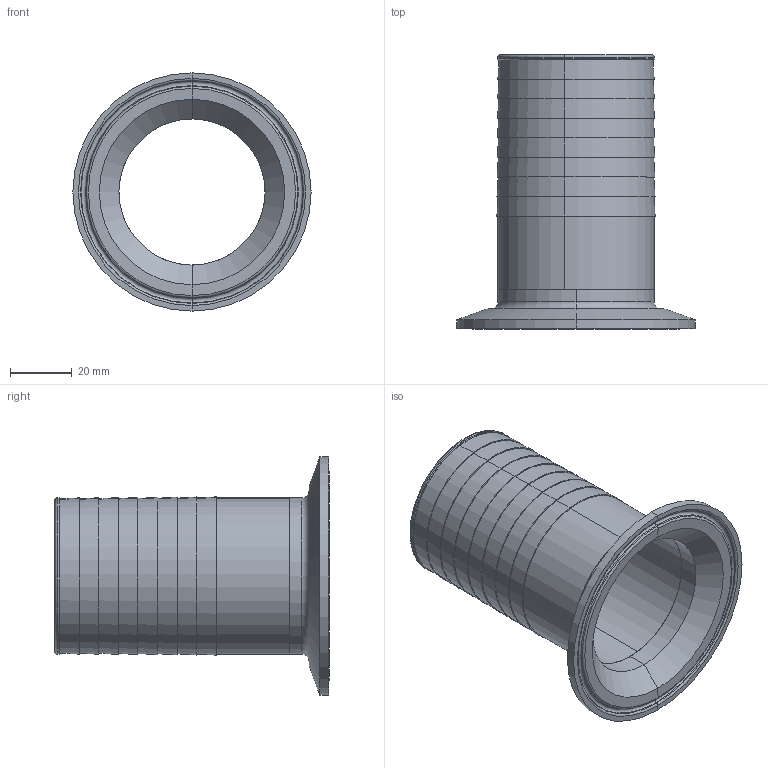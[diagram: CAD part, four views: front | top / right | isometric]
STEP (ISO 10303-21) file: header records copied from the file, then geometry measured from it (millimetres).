
FILE_DESCRIPTION (( 'STEP AP203' ), '1' );
FILE_NAME ('EG14RT2.5X2.0.STEP', '2018-05-11T12:32:17', ( 'vneprd' ), ( 'Microsoft' ), 'SwSTEP 2.0', 'SolidWorks 2014', '' );
FILE_SCHEMA (( 'CONFIG_CONTROL_DESIGN' ));
Length unit declared in the file: inch
Products named in the file (3): V14RH2.0; EG14RT2.5X2.0; EG2CS31D2.5X2.0
Assembly tree (2 placements, depth 2):
  EG14RT2.5X2.0
    EG2CS31D2.5X2.0
    V14RH2.0
Bounding box: 77.39 x 89.04 x 77.39 mm (x, y, z)
Volume: 32313.7 mm3; surface area: 33673 mm2
Topology: 2 solids, 2 shells, 66 faces, 132 edges, 78 vertices
Faces by surface type: cone 30, cylinder 12, torus 12, plane 12
Entity records: 2045 total; most frequent: DIRECTION 364, CARTESIAN_POINT 281, ORIENTED_EDGE 264, AXIS2_PLACEMENT_3D 161, EDGE_CURVE 132, CIRCLE 90, VERTEX_POINT 78, EDGE_LOOP 78
